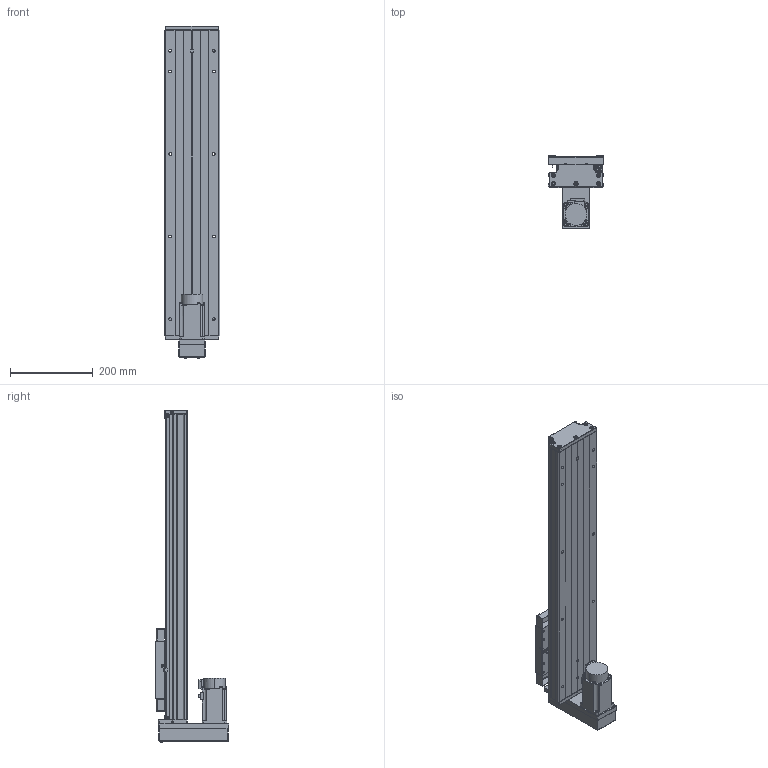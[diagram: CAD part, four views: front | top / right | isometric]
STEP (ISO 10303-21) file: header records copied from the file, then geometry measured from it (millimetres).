
FILE_DESCRIPTION (( 'STEP AP203' ), '1' );
FILE_NAME ('GTH14-500-BM-M40-C4.step', '2023-06-30T08:46:24', ( '微软用户' ), ( '微软中国' ), 'SwSTEP 2.0', 'SolidWorks 2020', '' );
FILE_SCHEMA (( 'CONFIG_CONTROL_DESIGN' ));
Length unit declared in the file: millimetre
Products named in the file (19): CTHA60-017; す晦芛蹟隊 M3℅5; GTH14-500-BM-M40-C4; GTH14-001_500; EE_SX911P_R; HG-KN43J-S100; GTH14-002_GTH14-002; CTHA60-016; GTH14-004; GBT 70.1-M3℅5; GTH14-005; GBT77-2000 M3×3; GBT 70.2-M4¡Á35_M4¡Á35; GB1155-6X6; GTH14-031; GTH14-015-2_CTHA86-015-2; GBT70.1 M5℅16; GBT 70.2-M3¡Á5_M3¡Á6; GTH14-033
Assembly tree (58 placements, depth 2):
  GTH14-500-BM-M40-C4
    GTH14-001_500
    GTH14-002_GTH14-002
    GTH14-004
    GTH14-005
    GB1155-6X6  x2
    GBT70.1 M5℅16  x10
    CTHA60-017  x3
    EE_SX911P_R  x3
    CTHA60-016  x2
    GBT 70.1-M3℅5  x6
    GBT77-2000 M3×3  x6
    GTH14-031
    GBT 70.2-M3¡Á5_M3¡Á6  x8
    す晦芛蹟隊 M3℅5  x6
    HG-KN43J-S100
    GBT 70.2-M4¡Á35_M4¡Á35  x4
    GTH14-015-2_CTHA86-015-2
    GTH14-033
Bounding box: 135 x 177.5 x 804.2 mm (x, y, z)
Volume: 4563918.8 mm3; surface area: 792260.6 mm2
Topology: 61 solids, 61 shells, 2453 faces, 5833 edges, 3594 vertices
Faces by surface type: plane 1307, cylinder 656, cone 314, torus 124, sphere 32, bspline 20
Entity records: 44158 total; most frequent: CARTESIAN_POINT 9857, DIRECTION 6489, ORIENTED_EDGE 6356, EDGE_CURVE 3178, AXIS2_PLACEMENT_3D 2218, VECTOR 2053, LINE 2053, VERTEX_POINT 2012
